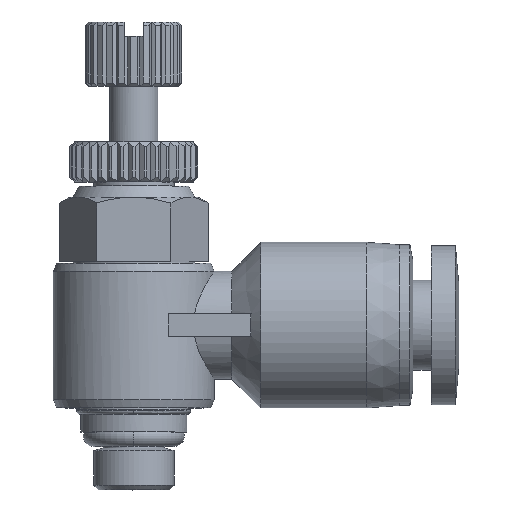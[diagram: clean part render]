
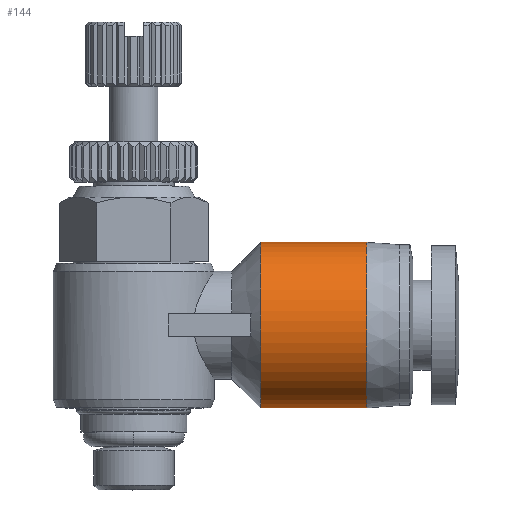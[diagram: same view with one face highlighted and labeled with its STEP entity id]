
A CAD part, top view. The second image highlights one B-rep face of the part: STEP entity #144.
In plain terms, the highlighted cylindrical face has radius 5.15 mm (diameter 10.3 mm), a partial arc.
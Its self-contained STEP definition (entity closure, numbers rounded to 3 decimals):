
#144 = ADVANCED_FACE ( 'NONE', ( #6854 ), #10701, .T. ) ;
#388 = CARTESIAN_POINT ( 'NONE',  ( 14.5, 15.266, 1.348 ) ) ;
#780 = CARTESIAN_POINT ( 'NONE',  ( 7.89, 9.576, 5.15 ) ) ;
#1034 = EDGE_CURVE ( 'NONE', #6587, #6230, #5441, .T. ) ;
#1139 = CARTESIAN_POINT ( 'NONE',  ( 14.5, 14.75, 2.594 ) ) ;
#1401 = CARTESIAN_POINT ( 'NONE',  ( 14.5, 14.368, 3.165 ) ) ;
#1525 = CARTESIAN_POINT ( 'NONE',  ( 14.5, 6.132, 3.165 ) ) ;
#1670 = CARTESIAN_POINT ( 'NONE',  ( 7.89, 14.368, 3.165 ) ) ;
#1725 = CARTESIAN_POINT ( 'NONE',  ( 7.89, 13.415, 4.118 ) ) ;
#2075 = CARTESIAN_POINT ( 'NONE',  ( 11.195, 10.25, 0. ) ) ;
#2085 = CARTESIAN_POINT ( 'NONE',  ( 7.89, 5.1, 0. ) ) ;
#2470 = CARTESIAN_POINT ( 'NONE',  ( 14.5, 7.656, 4.5 ) ) ;
#2615 = CARTESIAN_POINT ( 'NONE',  ( 7.89, 15.266, 1.348 ) ) ;
#2851 = CARTESIAN_POINT ( 'NONE',  ( 7.89, 8.902, 5.016 ) ) ;
#3193 = CARTESIAN_POINT ( 'NONE',  ( 11.195, 5.1, 0. ) ) ;
#3474 = CARTESIAN_POINT ( 'NONE',  ( 14.5, 7.085, 4.118 ) ) ;
#3564 = VECTOR ( 'NONE', #5556, 1000. ) ;
#3680 = CARTESIAN_POINT ( 'NONE',  ( 7.89, 6.132, 3.165 ) ) ;
#4285 = CARTESIAN_POINT ( 'NONE',  ( 14.5, 11.598, 5.016 ) ) ;
#4350 = CARTESIAN_POINT ( 'NONE',  ( 14.5, 5.234, 1.348 ) ) ;
#4584 = CARTESIAN_POINT ( 'NONE',  ( 14.5, 5.1, 0. ) ) ;
#4605 = CARTESIAN_POINT ( 'NONE',  ( 7.89, 7.656, 4.5 ) ) ;
#4668 = CARTESIAN_POINT ( 'NONE',  ( 7.89, 15.4, 0.674 ) ) ;
#4968 = CARTESIAN_POINT ( 'NONE',  ( 7.89, 5.1, 0.674 ) ) ;
#5184 = AXIS2_PLACEMENT_3D ( 'NONE', #2075, #10890, #5346 ) ;
#5226 = CARTESIAN_POINT ( 'NONE',  ( 14.5, 12.844, 4.5 ) ) ;
#5346 = DIRECTION ( 'NONE',  ( 0., 1., 0. ) ) ;
#5441 = LINE ( 'NONE', #7551, #3564 ) ;
#5496 = CARTESIAN_POINT ( 'NONE',  ( 7.89, 11.598, 5.016 ) ) ;
#5556 = DIRECTION ( 'NONE',  ( 1., 0., 0. ) ) ;
#6230 = VERTEX_POINT ( 'NONE', #9843 ) ;
#6529 = EDGE_CURVE ( 'NONE', #6587, #7246, #6691, .T. ) ;
#6532 = EDGE_LOOP ( 'NONE', ( #10220, #12069, #6757, #12121 ) ) ;
#6587 = VERTEX_POINT ( 'NONE', #10651 ) ;
#6626 = CARTESIAN_POINT ( 'NONE',  ( 7.89, 12.844, 4.5 ) ) ;
#6691 = B_SPLINE_CURVE_WITH_KNOTS ( 'NONE', 3,
 ( #9516, #4668, #2615, #11350, #1670, #1725, #6626, #5496, #9397, #780, #2851, #4605, #8447, #3680, #10837, #6864, #4968, #2085 ),
 .UNSPECIFIED., .F., .F.,
 ( 4, 2, 2, 2, 2, 2, 2, 2, 4 ),
 ( 0., 0.062, 0.125, 0.187, 0.25, 0.312, 0.375, 0.437, 0.5 ),
 .UNSPECIFIED. ) ;
#6757 = ORIENTED_EDGE ( 'NONE', *, *, #8407, .F. ) ;
#6854 = FACE_OUTER_BOUND ( 'NONE', #6532, .T. ) ;
#6864 = CARTESIAN_POINT ( 'NONE',  ( 7.89, 5.234, 1.348 ) ) ;
#7025 = DIRECTION ( 'NONE',  ( 1., 0., 0. ) ) ;
#7233 = CARTESIAN_POINT ( 'NONE',  ( 14.5, 5.75, 2.594 ) ) ;
#7246 = VERTEX_POINT ( 'NONE', #10292 ) ;
#7495 = B_SPLINE_CURVE_WITH_KNOTS ( 'NONE', 3,
 ( #9954, #8999, #388, #1139, #1401, #9063, #5226, #4285, #10706, #10082, #8243, #2470, #3474, #1525, #7233, #4350, #12032, #4584 ),
 .UNSPECIFIED., .F., .F.,
 ( 4, 2, 2, 2, 2, 2, 2, 2, 4 ),
 ( 0., 0.063, 0.125, 0.188, 0.25, 0.312, 0.375, 0.437, 0.5 ),
 .UNSPECIFIED. ) ;
#7551 = CARTESIAN_POINT ( 'NONE',  ( 11.195, 15.4, 0. ) ) ;
#8243 = CARTESIAN_POINT ( 'NONE',  ( 14.5, 8.902, 5.016 ) ) ;
#8407 = EDGE_CURVE ( 'NONE', #6230, #11847, #7495, .T. ) ;
#8447 = CARTESIAN_POINT ( 'NONE',  ( 7.89, 7.085, 4.118 ) ) ;
#8852 = LINE ( 'NONE', #3193, #11238 ) ;
#8999 = CARTESIAN_POINT ( 'NONE',  ( 14.5, 15.4, 0.674 ) ) ;
#9063 = CARTESIAN_POINT ( 'NONE',  ( 14.5, 13.415, 4.118 ) ) ;
#9092 = CARTESIAN_POINT ( 'NONE',  ( 14.5, 5.1, 0. ) ) ;
#9397 = CARTESIAN_POINT ( 'NONE',  ( 7.89, 10.924, 5.15 ) ) ;
#9516 = CARTESIAN_POINT ( 'NONE',  ( 7.89, 15.4, 0. ) ) ;
#9843 = CARTESIAN_POINT ( 'NONE',  ( 14.5, 15.4, 0. ) ) ;
#9954 = CARTESIAN_POINT ( 'NONE',  ( 14.5, 15.4, 0. ) ) ;
#10082 = CARTESIAN_POINT ( 'NONE',  ( 14.5, 9.576, 5.15 ) ) ;
#10220 = ORIENTED_EDGE ( 'NONE', *, *, #6529, .T. ) ;
#10292 = CARTESIAN_POINT ( 'NONE',  ( 7.89, 5.1, 0. ) ) ;
#10651 = CARTESIAN_POINT ( 'NONE',  ( 7.89, 15.4, 0. ) ) ;
#10701 = CYLINDRICAL_SURFACE ( 'NONE', #5184, 5.15 ) ;
#10706 = CARTESIAN_POINT ( 'NONE',  ( 14.5, 10.924, 5.15 ) ) ;
#10837 = CARTESIAN_POINT ( 'NONE',  ( 7.89, 5.75, 2.594 ) ) ;
#10890 = DIRECTION ( 'NONE',  ( 1., 0., 0. ) ) ;
#11238 = VECTOR ( 'NONE', #7025, 1000. ) ;
#11350 = CARTESIAN_POINT ( 'NONE',  ( 7.89, 14.75, 2.594 ) ) ;
#11423 = EDGE_CURVE ( 'NONE', #7246, #11847, #8852, .T. ) ;
#11847 = VERTEX_POINT ( 'NONE', #9092 ) ;
#12032 = CARTESIAN_POINT ( 'NONE',  ( 14.5, 5.1, 0.674 ) ) ;
#12069 = ORIENTED_EDGE ( 'NONE', *, *, #11423, .T. ) ;
#12121 = ORIENTED_EDGE ( 'NONE', *, *, #1034, .F. ) ;
